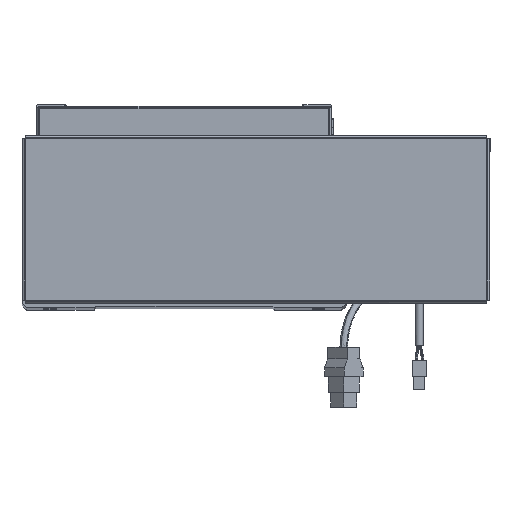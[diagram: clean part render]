
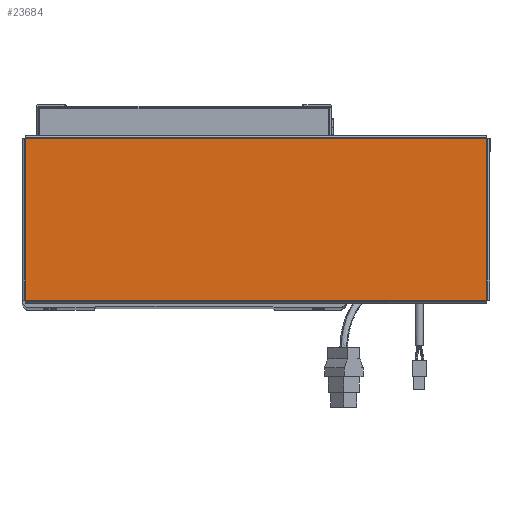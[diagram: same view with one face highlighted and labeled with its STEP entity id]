
A CAD part, top view. The second image highlights one B-rep face of the part: STEP entity #23684.
In plain terms, the highlighted planar face has unit normal (0, 0, 1).
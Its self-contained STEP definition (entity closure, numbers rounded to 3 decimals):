
#1362 = EDGE_LOOP ( 'NONE', ( #22141, #33201, #58528, #58817 ) ) ;
#2295 = VERTEX_POINT ( 'NONE', #40981 ) ;
#3776 = EDGE_CURVE ( 'NONE', #31459, #2295, #47748, .T. ) ;
#9263 = DIRECTION ( 'NONE',  ( 1., 0., 0. ) ) ;
#10283 = FACE_OUTER_BOUND ( 'NONE', #1362, .T. ) ;
#11916 = LINE ( 'NONE', #51827, #18346 ) ;
#13809 = EDGE_CURVE ( 'NONE', #16204, #39529, #33404, .T. ) ;
#16058 = CARTESIAN_POINT ( 'NONE',  ( 156.543, 54.763, 0. ) ) ;
#16204 = VERTEX_POINT ( 'NONE', #36684 ) ;
#16256 = DIRECTION ( 'NONE',  ( 0., 0., 1. ) ) ;
#16794 = DIRECTION ( 'NONE',  ( 0., 1., 0. ) ) ;
#18346 = VECTOR ( 'NONE', #16794, 1000. ) ;
#20683 = DIRECTION ( 'NONE',  ( 1., 0., 0. ) ) ;
#21712 = EDGE_CURVE ( 'NONE', #2295, #16204, #11916, .T. ) ;
#22141 = ORIENTED_EDGE ( 'NONE', *, *, #3776, .T. ) ;
#23085 = CARTESIAN_POINT ( 'NONE',  ( -156.513, 54.763, 0. ) ) ;
#23684 = ADVANCED_FACE ( 'NONE', ( #10283 ), #51277, .T. ) ;
#26780 = AXIS2_PLACEMENT_3D ( 'NONE', #46584, #16256, #20683 ) ;
#28624 = VECTOR ( 'NONE', #31147, 1000. ) ;
#30269 = LINE ( 'NONE', #48496, #40565 ) ;
#31147 = DIRECTION ( 'NONE',  ( -1., 0., 0. ) ) ;
#31459 = VERTEX_POINT ( 'NONE', #32603 ) ;
#32603 = CARTESIAN_POINT ( 'NONE',  ( -156.513, -54.763, 0. ) ) ;
#33201 = ORIENTED_EDGE ( 'NONE', *, *, #21712, .T. ) ;
#33404 = LINE ( 'NONE', #16058, #28624 ) ;
#36684 = CARTESIAN_POINT ( 'NONE',  ( 156.513, 54.763, 0. ) ) ;
#38997 = DIRECTION ( 'NONE',  ( 0., -1., 0. ) ) ;
#39529 = VERTEX_POINT ( 'NONE', #23085 ) ;
#40565 = VECTOR ( 'NONE', #38997, 1000. ) ;
#40662 = VECTOR ( 'NONE', #9263, 1000. ) ;
#40981 = CARTESIAN_POINT ( 'NONE',  ( 156.513, -54.763, 0. ) ) ;
#46584 = CARTESIAN_POINT ( 'NONE',  ( 0., 0., 0. ) ) ;
#47748 = LINE ( 'NONE', #59198, #40662 ) ;
#48496 = CARTESIAN_POINT ( 'NONE',  ( -156.513, 54.793, 0. ) ) ;
#51277 = PLANE ( 'NONE',  #26780 ) ;
#51827 = CARTESIAN_POINT ( 'NONE',  ( 156.513, -54.793, 0. ) ) ;
#57806 = EDGE_CURVE ( 'NONE', #39529, #31459, #30269, .T. ) ;
#58528 = ORIENTED_EDGE ( 'NONE', *, *, #13809, .T. ) ;
#58817 = ORIENTED_EDGE ( 'NONE', *, *, #57806, .T. ) ;
#59198 = CARTESIAN_POINT ( 'NONE',  ( -156.543, -54.763, 0. ) ) ;
